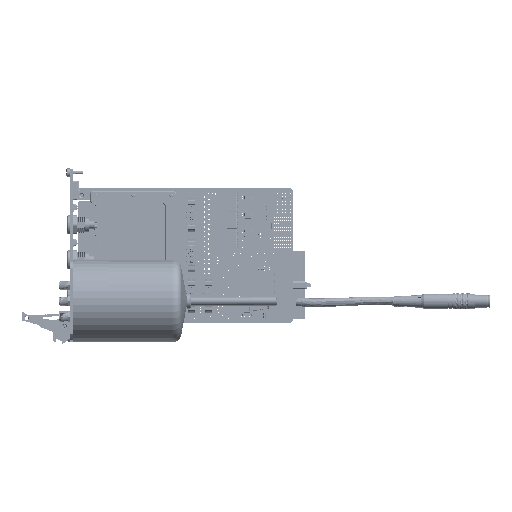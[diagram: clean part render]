
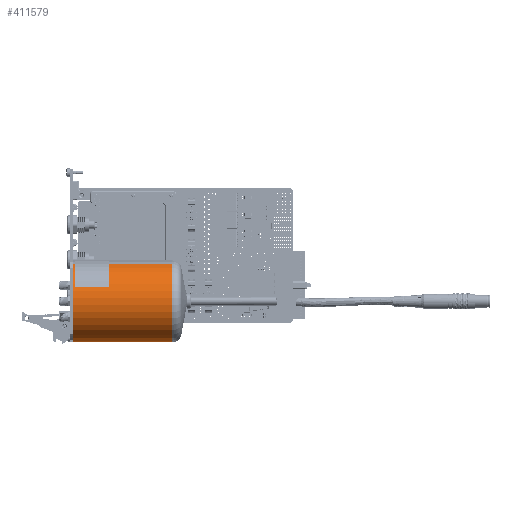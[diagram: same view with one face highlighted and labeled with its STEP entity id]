
A CAD part, top view. The second image highlights one B-rep face of the part: STEP entity #411579.
In plain terms, the highlighted cylindrical face has radius 30.225 mm (diameter 60.45 mm), a partial arc.
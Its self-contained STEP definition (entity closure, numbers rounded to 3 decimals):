
#37465 = FACE_OUTER_BOUND ( 'NONE', #496831, .T. ) ;
#57981 = EDGE_CURVE ( 'NONE', #494560, #367421, #263827, .T. ) ;
#60487 = CARTESIAN_POINT ( 'NONE',  ( 0., 0., -30.225 ) ) ;
#106049 = ORIENTED_EDGE ( 'NONE', *, *, #241584, .F. ) ;
#108590 = CARTESIAN_POINT ( 'NONE',  ( 0., 0., 0. ) ) ;
#134994 = DIRECTION ( 'NONE',  ( 0., 0., -1. ) ) ;
#140057 = ORIENTED_EDGE ( 'NONE', *, *, #57981, .F. ) ;
#149251 = DIRECTION ( 'NONE',  ( 0., -1., 0. ) ) ;
#157060 = CARTESIAN_POINT ( 'NONE',  ( 0., 74., -30.225 ) ) ;
#159634 = CARTESIAN_POINT ( 'NONE',  ( 0., 74., 30.225 ) ) ;
#161720 = AXIS2_PLACEMENT_3D ( 'NONE', #108590, #388211, #479000 ) ;
#180039 = CARTESIAN_POINT ( 'NONE',  ( 0., 0.3, -30.225 ) ) ;
#187371 = LINE ( 'NONE', #412421, #479511 ) ;
#188230 = EDGE_CURVE ( 'NONE', #411015, #367421, #187371, .T. ) ;
#211043 = DIRECTION ( 'NONE',  ( 0., -1., 0. ) ) ;
#224970 = EDGE_CURVE ( 'NONE', #354799, #411015, #452820, .T. ) ;
#241584 = EDGE_CURVE ( 'NONE', #354799, #494560, #461091, .T. ) ;
#244651 = DIRECTION ( 'NONE',  ( 0., -1., 0. ) ) ;
#263827 = CIRCLE ( 'NONE', #347596, 30.225 ) ;
#274384 = VECTOR ( 'NONE', #244651, 1000. ) ;
#310401 = DIRECTION ( 'NONE',  ( 0., -1., 0. ) ) ;
#342850 = CARTESIAN_POINT ( 'NONE',  ( 0., 0.3, 30.225 ) ) ;
#347596 = AXIS2_PLACEMENT_3D ( 'NONE', #357078, #310401, #134994 ) ;
#349912 = AXIS2_PLACEMENT_3D ( 'NONE', #447643, #211043, #532429 ) ;
#354799 = VERTEX_POINT ( 'NONE', #157060 ) ;
#357078 = CARTESIAN_POINT ( 'NONE',  ( 0., 0.3, 0. ) ) ;
#367421 = VERTEX_POINT ( 'NONE', #342850 ) ;
#380590 = ORIENTED_EDGE ( 'NONE', *, *, #188230, .T. ) ;
#388211 = DIRECTION ( 'NONE',  ( 0., -1., 0. ) ) ;
#411015 = VERTEX_POINT ( 'NONE', #159634 ) ;
#411579 = ADVANCED_FACE ( 'NONE', ( #37465 ), #462435, .T. ) ;
#412421 = CARTESIAN_POINT ( 'NONE',  ( 0., 0., 30.225 ) ) ;
#418181 = ORIENTED_EDGE ( 'NONE', *, *, #224970, .T. ) ;
#447643 = CARTESIAN_POINT ( 'NONE',  ( 0., 74., 0. ) ) ;
#452820 = CIRCLE ( 'NONE', #349912, 30.225 ) ;
#461091 = LINE ( 'NONE', #60487, #274384 ) ;
#462435 = CYLINDRICAL_SURFACE ( 'NONE', #161720, 30.225 ) ;
#479000 = DIRECTION ( 'NONE',  ( 0., 0., -1. ) ) ;
#479511 = VECTOR ( 'NONE', #149251, 1000. ) ;
#494560 = VERTEX_POINT ( 'NONE', #180039 ) ;
#496831 = EDGE_LOOP ( 'NONE', ( #418181, #380590, #140057, #106049 ) ) ;
#532429 = DIRECTION ( 'NONE',  ( 0., 0., -1. ) ) ;
